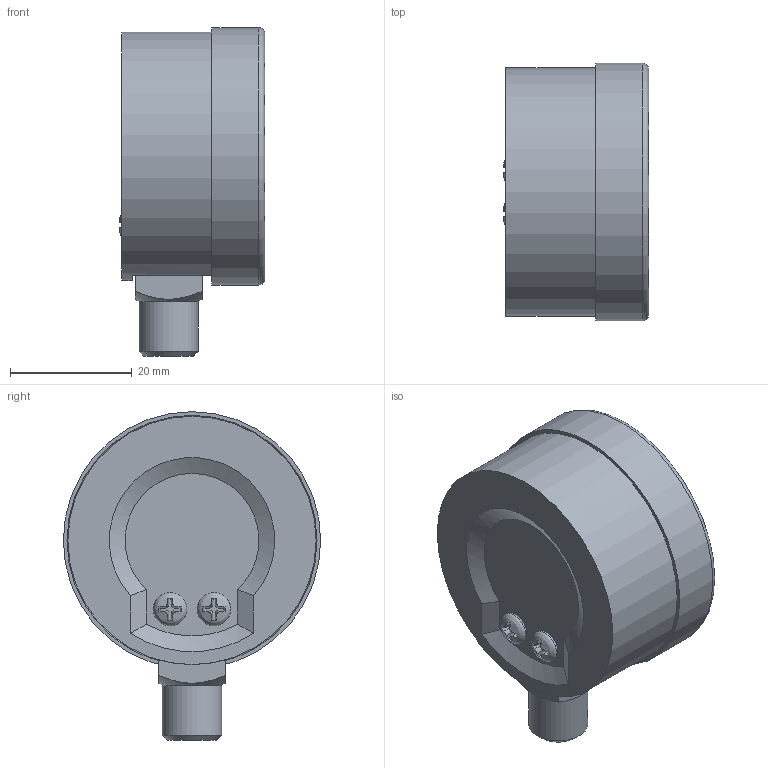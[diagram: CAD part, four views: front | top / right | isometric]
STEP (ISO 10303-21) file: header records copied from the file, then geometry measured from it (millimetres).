
FILE_DESCRIPTION(('STEP AP203'), '1');
FILE_NAME('VT.TM40.DC.01', '', ('UNSPECIFIED'), ('UNSPECIFIED'), 'C3D Converter', 'C3D Toolkit', '');
FILE_SCHEMA(('CONFIG_CONTROL_DESIGN'));
Length unit declared in the file: millimetre
Products named in the file (1): ВР.408667.006.000 СБ
Bounding box: 23.93 x 42.3 x 54 mm (x, y, z)
Volume: 7834.4 mm3; surface area: 17475.5 mm2
Topology: 8 solids, 8 shells, 108 faces, 258 edges, 168 vertices
Faces by surface type: plane 67, cylinder 24, cone 11, torus 4, bspline 2
Full cylindrical faces by diameter (mm): 2.459 x2, 2.5 x1, 3 x2, 3.5 x2, 9.728 x1, 39 x1, 39.6 x1, 40.7 x1, 40.8 x1, 41.1 x1, 42.3 x1
Entity records: 4664 total; most frequent: CARTESIAN_POINT 2208, ORIENTED_EDGE 462, DIRECTION 449, EDGE_CURVE 231, VERTEX_POINT 168, AXIS2_PLACEMENT_3D 166, EDGE_LOOP 155, LINE 117
